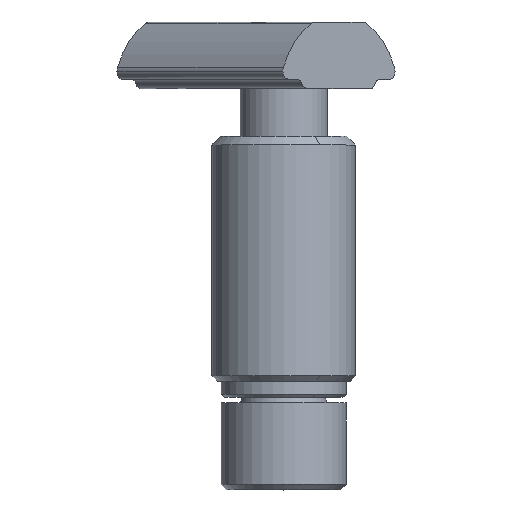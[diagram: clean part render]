
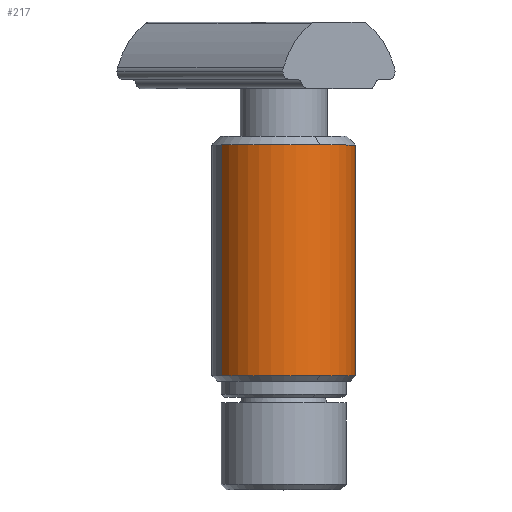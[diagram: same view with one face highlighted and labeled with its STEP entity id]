
A CAD part, top view. The second image highlights one B-rep face of the part: STEP entity #217.
In plain terms, the highlighted cylindrical face has radius 6.6 mm (diameter 13.2 mm), a partial arc.
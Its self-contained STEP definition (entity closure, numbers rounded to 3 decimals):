
#217=ADVANCED_FACE('NONE',(#472),#473,.T.);
#472=FACE_OUTER_BOUND('',#924,.T.);
#473=CYLINDRICAL_SURFACE('',#925,6.6);
#924=EDGE_LOOP('',(#1603,#1604,#1605,#1606,#1607,#1608));
#925=AXIS2_PLACEMENT_3D('',#1609,#1610,#1611);
#1603=ORIENTED_EDGE('',*,*,#2282,.F.);
#1604=ORIENTED_EDGE('',*,*,#2283,.T.);
#1605=ORIENTED_EDGE('',*,*,#2284,.T.);
#1606=ORIENTED_EDGE('',*,*,#2285,.T.);
#1607=ORIENTED_EDGE('',*,*,#2286,.T.);
#1608=ORIENTED_EDGE('',*,*,#2271,.T.);
#1609=CARTESIAN_POINT('',(4.358,21.25,8.913));
#1610=DIRECTION('',(0.,-1.0,0.));
#1611=DIRECTION('',(0.865,0.,-0.501));
#2271=EDGE_CURVE('NONE',#2719,#2725,#2727,.T.);
#2282=EDGE_CURVE('NONE',#2740,#2725,#2741,.T.);
#2283=EDGE_CURVE('NONE',#2740,#2742,#2743,.T.);
#2284=EDGE_CURVE('NONE',#2742,#2744,#2745,.T.);
#2285=EDGE_CURVE('NONE',#2744,#2746,#2747,.T.);
#2286=EDGE_CURVE('NONE',#2746,#2719,#2748,.T.);
#2719=VERTEX_POINT('NONE',#3411);
#2725=VERTEX_POINT('NONE',#3419);
#2727=CIRCLE('',#3421,6.6);
#2740=VERTEX_POINT('NONE',#3448);
#2741=LINE('',#3449,#3450);
#2742=VERTEX_POINT('NONE',#3451);
#2743=CIRCLE('',#3452,6.6);
#2744=VERTEX_POINT('NONE',#3453);
#2745=CIRCLE('',#3454,6.6);
#2746=VERTEX_POINT('NONE',#3455);
#2747=LINE('',#3456,#3457);
#2748=CIRCLE('',#3458,6.6);
#3411=CARTESIAN_POINT('',(7.664,31.7,14.625));
#3419=CARTESIAN_POINT('',(-1.354,31.7,12.219));
#3421=AXIS2_PLACEMENT_3D('',#3946,#3947,#3948);
#3448=CARTESIAN_POINT('',(-1.354,10.5,12.219));
#3449=CARTESIAN_POINT('',(-1.354,21.25,12.219));
#3450=VECTOR('',#3956,1000.0);
#3451=CARTESIAN_POINT('',(7.664,10.5,14.625));
#3452=AXIS2_PLACEMENT_3D('',#3957,#3958,#3959);
#3453=CARTESIAN_POINT('',(10.07,10.5,5.607));
#3454=AXIS2_PLACEMENT_3D('',#3960,#3961,#3962);
#3455=CARTESIAN_POINT('',(10.07,31.7,5.607));
#3456=CARTESIAN_POINT('',(10.07,21.25,5.607));
#3457=VECTOR('',#3963,1000.0);
#3458=AXIS2_PLACEMENT_3D('',#3964,#3965,#3966);
#3946=CARTESIAN_POINT('',(4.358,31.7,8.913));
#3947=DIRECTION('',(0.,-1.0,0.));
#3948=DIRECTION('',(0.865,0.,-0.501));
#3956=DIRECTION('',(0.,1.0,0.));
#3957=CARTESIAN_POINT('',(4.358,10.5,8.913));
#3958=DIRECTION('',(0.,1.0,0.));
#3959=DIRECTION('',(0.865,0.,-0.501));
#3960=CARTESIAN_POINT('',(4.358,10.5,8.913));
#3961=DIRECTION('',(0.,1.0,0.));
#3962=DIRECTION('',(0.865,0.,-0.501));
#3963=DIRECTION('',(0.,1.0,0.));
#3964=CARTESIAN_POINT('',(4.358,31.7,8.913));
#3965=DIRECTION('',(0.,-1.0,0.));
#3966=DIRECTION('',(0.865,0.,-0.501));
